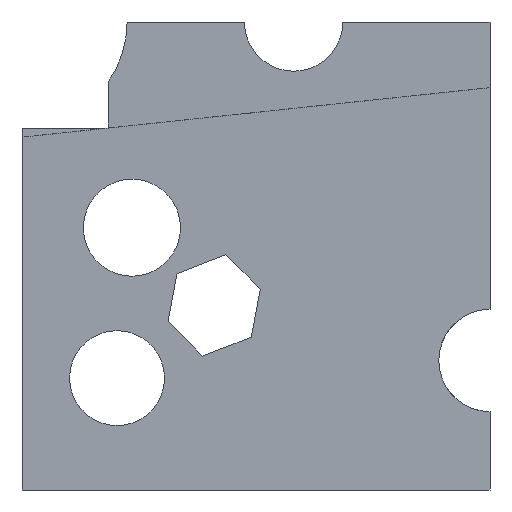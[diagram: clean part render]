
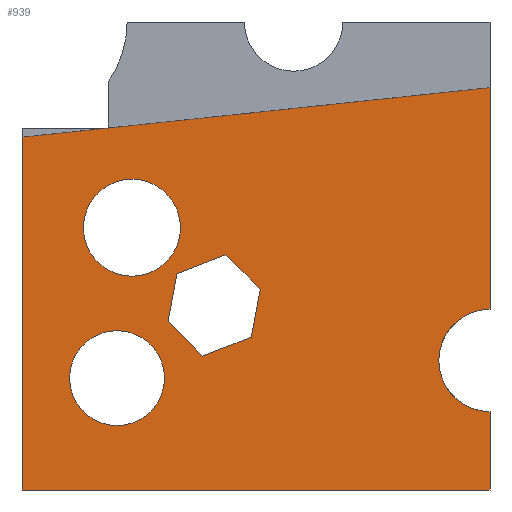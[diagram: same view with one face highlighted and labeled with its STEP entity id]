
A CAD part, left-side view. The second image highlights one B-rep face of the part: STEP entity #939.
In plain terms, the highlighted planar face has unit normal (-1, 0, 0).
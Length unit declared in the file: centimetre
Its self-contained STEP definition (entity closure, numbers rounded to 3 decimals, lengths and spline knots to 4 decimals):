
#3 = LINE ( 'NONE', #938, #1029 ) ;
#5 = DIRECTION ( 'NONE',  ( 0., -0.994, 0.105 ) ) ;
#8 = CARTESIAN_POINT ( 'NONE',  ( 0., 1000., 0. ) ) ;
#12 = CIRCLE ( 'NONE', #848, 103.6953 ) ;
#13 = CARTESIAN_POINT ( 'NONE',  ( 0., 564.635, 502.7984 ) ) ;
#18 = EDGE_CURVE ( 'NONE', #1040, #59, #530, .T. ) ;
#29 = EDGE_CURVE ( 'NONE', #449, #741, #489, .T. ) ;
#31 = ORIENTED_EDGE ( 'NONE', *, *, #887, .F. ) ;
#36 = VERTEX_POINT ( 'NONE', #316 ) ;
#43 = VECTOR ( 'NONE', #806, 100. ) ;
#51 = PLANE ( 'NONE',  #677 ) ;
#53 = VERTEX_POINT ( 'NONE', #227 ) ;
#54 = CARTESIAN_POINT ( 'NONE',  ( 0., 0., 1000. ) ) ;
#59 = VERTEX_POINT ( 'NONE', #1089 ) ;
#64 = DIRECTION ( 'NONE',  ( 0., 0., -1. ) ) ;
#66 = LINE ( 'NONE', #54, #972 ) ;
#73 = CARTESIAN_POINT ( 'NONE',  ( 0., 796.9385, 137.6678 ) ) ;
#86 = EDGE_CURVE ( 'NONE', #53, #390, #823, .T. ) ;
#88 = CARTESIAN_POINT ( 'NONE',  ( 0., 491.0276, 429.1911 ) ) ;
#89 = VERTEX_POINT ( 'NONE', #914 ) ;
#98 = CIRCLE ( 'NONE', #326, 101.4057 ) ;
#102 = EDGE_CURVE ( 'NONE', #801, #36, #66, .T. ) ;
#127 = CARTESIAN_POINT ( 'NONE',  ( 0., 765.0852, 560.5072 ) ) ;
#143 = DIRECTION ( 'NONE',  ( 0., 0., -1. ) ) ;
#149 = CARTESIAN_POINT ( 'NONE',  ( 0., 765.0852, 456.8119 ) ) ;
#158 = LINE ( 'NONE', #315, #769 ) ;
#187 = EDGE_CURVE ( 'NONE', #89, #449, #905, .T. ) ;
#192 = EDGE_LOOP ( 'NONE', ( #542, #525, #815, #1035, #31, #220 ) ) ;
#198 = LINE ( 'NONE', #1031, #391 ) ;
#218 = CARTESIAN_POINT ( 'NONE',  ( 0., 0., 276.7668 ) ) ;
#220 = ORIENTED_EDGE ( 'NONE', *, *, #546, .F. ) ;
#227 = CARTESIAN_POINT ( 'NONE',  ( 0., 765.0852, 664.2024 ) ) ;
#230 = VERTEX_POINT ( 'NONE', #897 ) ;
#271 = CIRCLE ( 'NONE', #846, 101.4057 ) ;
#273 = EDGE_CURVE ( 'NONE', #562, #1040, #460, .T. ) ;
#280 = CARTESIAN_POINT ( 'NONE',  ( 0., 1000., 0. ) ) ;
#283 = CARTESIAN_POINT ( 'NONE',  ( 0., 0., 167.3682 ) ) ;
#291 = FACE_OUTER_BOUND ( 'NONE', #999, .T. ) ;
#293 = EDGE_CURVE ( 'NONE', #455, #540, #271, .T. ) ;
#311 = ORIENTED_EDGE ( 'NONE', *, *, #86, .T. ) ;
#315 = CARTESIAN_POINT ( 'NONE',  ( 0., 564.635, 502.7984 ) ) ;
#316 = CARTESIAN_POINT ( 'NONE',  ( 0., 0., 386.1654 ) ) ;
#323 = DIRECTION ( 'NONE',  ( 0., 0.932, -0.362 ) ) ;
#326 = AXIS2_PLACEMENT_3D ( 'NONE', #360, #440, #365 ) ;
#333 = CARTESIAN_POINT ( 'NONE',  ( 0., 1000., 753.8538 ) ) ;
#342 = AXIS2_PLACEMENT_3D ( 'NONE', #630, #570, #143 ) ;
#360 = CARTESIAN_POINT ( 'NONE',  ( 0., 796.9385, 239.0735 ) ) ;
#365 = DIRECTION ( 'NONE',  ( 0., 0., 1. ) ) ;
#381 = DIRECTION ( 'NONE',  ( -1., 0., 0. ) ) ;
#390 = VERTEX_POINT ( 'NONE', #149 ) ;
#391 = VECTOR ( 'NONE', #444, 100. ) ;
#395 = VECTOR ( 'NONE', #5, 100. ) ;
#409 = CARTESIAN_POINT ( 'NONE',  ( 0., 796.9385, 340.4792 ) ) ;
#440 = DIRECTION ( 'NONE',  ( -1., 0., 0. ) ) ;
#441 = DIRECTION ( 'NONE',  ( 0., -1., 0. ) ) ;
#444 = DIRECTION ( 'NONE',  ( 0., 0.184, -0.983 ) ) ;
#449 = VERTEX_POINT ( 'NONE', #88 ) ;
#455 = VERTEX_POINT ( 'NONE', #409 ) ;
#458 = DIRECTION ( 'NONE',  ( 1., 0., 0. ) ) ;
#460 = LINE ( 'NONE', #1078, #851 ) ;
#475 = ORIENTED_EDGE ( 'NONE', *, *, #102, .F. ) ;
#479 = AXIS2_PLACEMENT_3D ( 'NONE', #218, #548, #904 ) ;
#489 = LINE ( 'NONE', #1067, #804 ) ;
#490 = EDGE_CURVE ( 'NONE', #562, #801, #737, .T. ) ;
#525 = ORIENTED_EDGE ( 'NONE', *, *, #1094, .F. ) ;
#527 = ORIENTED_EDGE ( 'NONE', *, *, #595, .F. ) ;
#530 = LINE ( 'NONE', #280, #618 ) ;
#540 = VERTEX_POINT ( 'NONE', #73 ) ;
#542 = ORIENTED_EDGE ( 'NONE', *, *, #745, .F. ) ;
#546 = EDGE_CURVE ( 'NONE', #230, #1003, #3, .T. ) ;
#548 = DIRECTION ( 'NONE',  ( 1., 0., 0. ) ) ;
#554 = CARTESIAN_POINT ( 'NONE',  ( 0., 1000., 1000. ) ) ;
#558 = ORIENTED_EDGE ( 'NONE', *, *, #293, .F. ) ;
#562 = VERTEX_POINT ( 'NONE', #333 ) ;
#570 = DIRECTION ( 'NONE',  ( 1., 0., 0. ) ) ;
#591 = CARTESIAN_POINT ( 'NONE',  ( 0., 0., 1000. ) ) ;
#595 = EDGE_CURVE ( 'NONE', #930, #59, #765, .T. ) ;
#603 = VECTOR ( 'NONE', #995, 100. ) ;
#618 = VECTOR ( 'NONE', #441, 100. ) ;
#623 = CARTESIAN_POINT ( 'NONE',  ( 0., 614.3522, 286.1477 ) ) ;
#630 = CARTESIAN_POINT ( 'NONE',  ( 0., 765.0852, 560.5072 ) ) ;
#631 = CIRCLE ( 'NONE', #479, 109.3986 ) ;
#650 = ORIENTED_EDGE ( 'NONE', *, *, #693, .F. ) ;
#652 = DIRECTION ( 'NONE',  ( 0., 0.707, 0.707 ) ) ;
#655 = CARTESIAN_POINT ( 'NONE',  ( 0., 614.3522, 286.1477 ) ) ;
#661 = DIRECTION ( 'NONE',  ( 0., -0.707, -0.707 ) ) ;
#677 = AXIS2_PLACEMENT_3D ( 'NONE', #554, #978, #1076 ) ;
#693 = EDGE_CURVE ( 'NONE', #540, #455, #98, .T. ) ;
#696 = ORIENTED_EDGE ( 'NONE', *, *, #490, .F. ) ;
#708 = LINE ( 'NONE', #623, #43 ) ;
#719 = FACE_BOUND ( 'NONE', #949, .T. ) ;
#732 = DIRECTION ( 'NONE',  ( 0., 0., -1. ) ) ;
#737 = LINE ( 'NONE', #853, #395 ) ;
#740 = CARTESIAN_POINT ( 'NONE',  ( 0., 796.9385, 239.0735 ) ) ;
#741 = VERTEX_POINT ( 'NONE', #13 ) ;
#745 = EDGE_CURVE ( 'NONE', #798, #230, #198, .T. ) ;
#765 = LINE ( 'NONE', #591, #984 ) ;
#769 = VECTOR ( 'NONE', #323, 100. ) ;
#789 = CARTESIAN_POINT ( 'NONE',  ( 0., 668.7932, 462.3881 ) ) ;
#793 = EDGE_LOOP ( 'NONE', ( #558, #650 ) ) ;
#798 = VERTEX_POINT ( 'NONE', #789 ) ;
#801 = VERTEX_POINT ( 'NONE', #1041 ) ;
#804 = VECTOR ( 'NONE', #652, 100. ) ;
#806 = DIRECTION ( 'NONE',  ( 0., -0.932, 0.362 ) ) ;
#810 = FACE_BOUND ( 'NONE', #192, .T. ) ;
#815 = ORIENTED_EDGE ( 'NONE', *, *, #29, .F. ) ;
#823 = CIRCLE ( 'NONE', #342, 103.6953 ) ;
#846 = AXIS2_PLACEMENT_3D ( 'NONE', #740, #381, #902 ) ;
#848 = AXIS2_PLACEMENT_3D ( 'NONE', #127, #458, #732 ) ;
#851 = VECTOR ( 'NONE', #64, 100. ) ;
#853 = CARTESIAN_POINT ( 'NONE',  ( 0., 1000., 753.8538 ) ) ;
#878 = ORIENTED_EDGE ( 'NONE', *, *, #273, .T. ) ;
#887 = EDGE_CURVE ( 'NONE', #1003, #89, #708, .T. ) ;
#894 = EDGE_CURVE ( 'NONE', #930, #36, #631, .T. ) ;
#897 = CARTESIAN_POINT ( 'NONE',  ( 0., 687.9595, 359.755 ) ) ;
#902 = DIRECTION ( 'NONE',  ( 0., 0., 1. ) ) ;
#904 = DIRECTION ( 'NONE',  ( 0., 0., -1. ) ) ;
#905 = LINE ( 'NONE', #1071, #603 ) ;
#908 = DIRECTION ( 'NONE',  ( 0., 0., -1. ) ) ;
#914 = CARTESIAN_POINT ( 'NONE',  ( 0., 510.1939, 326.5581 ) ) ;
#925 = EDGE_CURVE ( 'NONE', #390, #53, #12, .T. ) ;
#930 = VERTEX_POINT ( 'NONE', #283 ) ;
#938 = CARTESIAN_POINT ( 'NONE',  ( 0., 687.9595, 359.755 ) ) ;
#939 = ADVANCED_FACE ( 'NONE', ( #1061, #810, #719, #291 ), #51, .F. ) ;
#949 = EDGE_LOOP ( 'NONE', ( #952, #311 ) ) ;
#952 = ORIENTED_EDGE ( 'NONE', *, *, #925, .T. ) ;
#972 = VECTOR ( 'NONE', #908, 100. ) ;
#976 = ORIENTED_EDGE ( 'NONE', *, *, #18, .T. ) ;
#978 = DIRECTION ( 'NONE',  ( 1., 0., 0. ) ) ;
#984 = VECTOR ( 'NONE', #1018, 100. ) ;
#995 = DIRECTION ( 'NONE',  ( 0., -0.184, 0.983 ) ) ;
#999 = EDGE_LOOP ( 'NONE', ( #475, #696, #878, #976, #527, #1091 ) ) ;
#1003 = VERTEX_POINT ( 'NONE', #655 ) ;
#1018 = DIRECTION ( 'NONE',  ( 0., 0., -1. ) ) ;
#1029 = VECTOR ( 'NONE', #661, 100. ) ;
#1031 = CARTESIAN_POINT ( 'NONE',  ( 0., 668.7932, 462.3881 ) ) ;
#1035 = ORIENTED_EDGE ( 'NONE', *, *, #187, .F. ) ;
#1040 = VERTEX_POINT ( 'NONE', #8 ) ;
#1041 = CARTESIAN_POINT ( 'NONE',  ( 0., 0., 859.6474 ) ) ;
#1061 = FACE_BOUND ( 'NONE', #793, .T. ) ;
#1067 = CARTESIAN_POINT ( 'NONE',  ( 0., 491.0276, 429.1911 ) ) ;
#1071 = CARTESIAN_POINT ( 'NONE',  ( 0., 510.1939, 326.5581 ) ) ;
#1076 = DIRECTION ( 'NONE',  ( 0., 0., -1. ) ) ;
#1078 = CARTESIAN_POINT ( 'NONE',  ( 0., 1000., 1000. ) ) ;
#1089 = CARTESIAN_POINT ( 'NONE',  ( 0., 0., 0. ) ) ;
#1091 = ORIENTED_EDGE ( 'NONE', *, *, #894, .T. ) ;
#1094 = EDGE_CURVE ( 'NONE', #741, #798, #158, .T. ) ;
